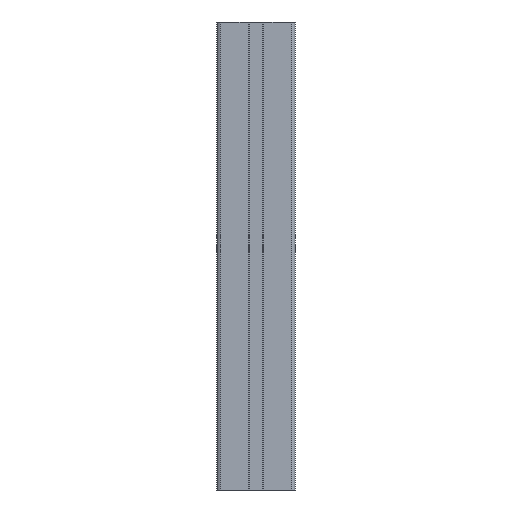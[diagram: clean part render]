
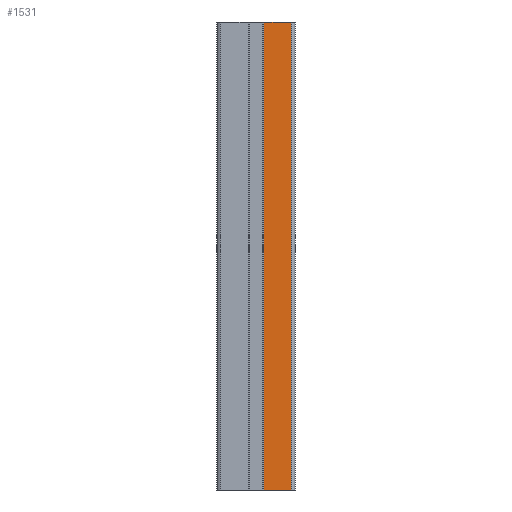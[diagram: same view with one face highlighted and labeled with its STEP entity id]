
A CAD part, left-side view. The second image highlights one B-rep face of the part: STEP entity #1531.
In plain terms, the highlighted planar face has unit normal (-1, 0, 0).
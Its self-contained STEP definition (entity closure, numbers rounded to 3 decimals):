
#104 = ORIENTED_EDGE ( 'NONE', *, *, #411, .T. ) ;
#143 = LINE ( 'NONE', #3572, #577 ) ;
#411 = EDGE_CURVE ( 'NONE', #4253, #469, #1449, .T. ) ;
#415 = CARTESIAN_POINT ( 'NONE',  ( -25., -5.1, 150. ) ) ;
#452 = DIRECTION ( 'NONE',  ( 0., -1., 0. ) ) ;
#469 = VERTEX_POINT ( 'NONE', #4352 ) ;
#577 = VECTOR ( 'NONE', #3067, 1000. ) ;
#610 = DIRECTION ( 'NONE',  ( 0., 0., -1. ) ) ;
#625 = EDGE_CURVE ( 'NONE', #2669, #2141, #143, .T. ) ;
#758 = EDGE_CURVE ( 'NONE', #2669, #4253, #4068, .T. ) ;
#918 = PLANE ( 'NONE',  #1600 ) ;
#958 = CARTESIAN_POINT ( 'NONE',  ( -25., -5.1, -150. ) ) ;
#968 = EDGE_CURVE ( 'NONE', #2141, #469, #1618, .T. ) ;
#1107 = CARTESIAN_POINT ( 'NONE',  ( -25., -22.5, 150. ) ) ;
#1370 = VECTOR ( 'NONE', #3099, 1000. ) ;
#1449 = LINE ( 'NONE', #958, #2585 ) ;
#1531 = ADVANCED_FACE ( 'NONE', ( #4115 ), #918, .F. ) ;
#1550 = EDGE_LOOP ( 'NONE', ( #104, #4212, #3621, #3108 ) ) ;
#1600 = AXIS2_PLACEMENT_3D ( 'NONE', #415, #4722, #4298 ) ;
#1618 = LINE ( 'NONE', #1107, #3933 ) ;
#1830 = CARTESIAN_POINT ( 'NONE',  ( -25., -5.1, 150. ) ) ;
#1936 = CARTESIAN_POINT ( 'NONE',  ( -25., -5.1, -150. ) ) ;
#2141 = VERTEX_POINT ( 'NONE', #3321 ) ;
#2585 = VECTOR ( 'NONE', #452, 1000. ) ;
#2669 = VERTEX_POINT ( 'NONE', #1830 ) ;
#3067 = DIRECTION ( 'NONE',  ( 0., -1., 0. ) ) ;
#3099 = DIRECTION ( 'NONE',  ( 0., 0., -1. ) ) ;
#3108 = ORIENTED_EDGE ( 'NONE', *, *, #758, .T. ) ;
#3321 = CARTESIAN_POINT ( 'NONE',  ( -25., -22.5, 150. ) ) ;
#3572 = CARTESIAN_POINT ( 'NONE',  ( -25., -5.1, 150. ) ) ;
#3603 = CARTESIAN_POINT ( 'NONE',  ( -25., -5.1, 150. ) ) ;
#3621 = ORIENTED_EDGE ( 'NONE', *, *, #625, .F. ) ;
#3933 = VECTOR ( 'NONE', #610, 1000. ) ;
#4068 = LINE ( 'NONE', #3603, #1370 ) ;
#4115 = FACE_OUTER_BOUND ( 'NONE', #1550, .T. ) ;
#4212 = ORIENTED_EDGE ( 'NONE', *, *, #968, .F. ) ;
#4253 = VERTEX_POINT ( 'NONE', #1936 ) ;
#4298 = DIRECTION ( 'NONE',  ( 0., 0., -1. ) ) ;
#4352 = CARTESIAN_POINT ( 'NONE',  ( -25., -22.5, -150. ) ) ;
#4722 = DIRECTION ( 'NONE',  ( 1., 0., 0. ) ) ;
